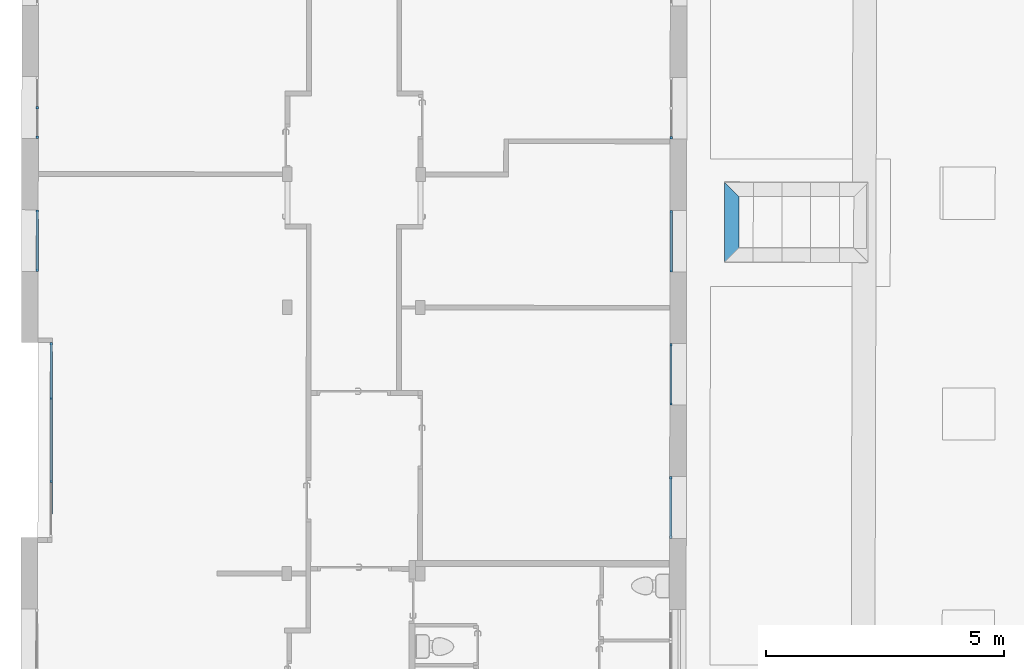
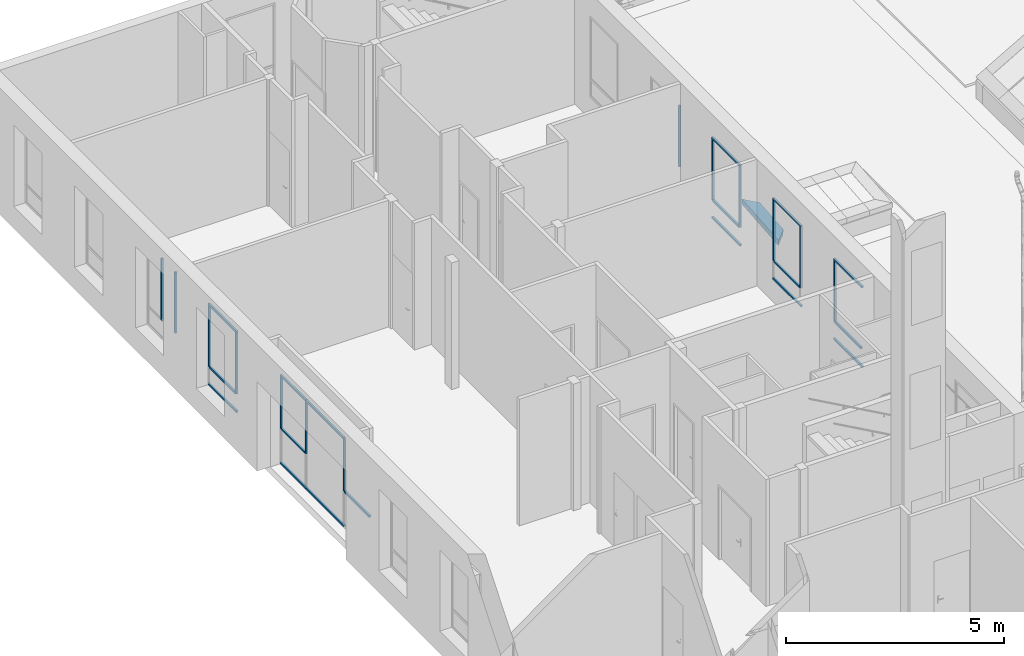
# One storey, part 8 of 101: 32 members, 8 elements without a shape of their own.
"""IFC2X3 building model written with IfcOpenShell, lengths in metres."""

from ifc_helpers import new_model, entity, si_unit, converted_unit, derived_unit, direction, frame, frame_2d, origin, origin_2d_with_axis, place, context, subcontext, project, spatial, polyline, rectangle, outline, extrude, source, transform, mapped, material, type_object, type_shapes, element, aggregate, save


model = new_model("IFC2X3")

# Units and contexts
model_context = context("Model", 3, precision=1e-05, world=origin(), true_north=direction((6.123233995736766e-17, 1.0)))
body_context = subcontext(model_context, "Body", "Model", "MODEL_VIEW")
ifc_project = project(units=[si_unit("LENGTHUNIT", "METRE"), si_unit("AREAUNIT", "SQUARE_METRE"), converted_unit("PLANEANGLEUNIT", "DEGREE", entity("IfcPlaneAngleMeasure", 0.017453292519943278), si_unit("PLANEANGLEUNIT", "RADIAN"), dimensions=[0, 0, 0, 0, 0, 0, 0]), derived_unit("THERMALTRANSMITTANCEUNIT", [(si_unit("MASSUNIT", "GRAM", prefix="KILO"), 1), (si_unit("THERMODYNAMICTEMPERATUREUNIT", "KELVIN"), -1), (si_unit("TIMEUNIT", "SECOND"), -3)])], contexts=[model_context])

# Site, building, storey
site_placement = place(None, frame((1253.6752467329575, 2072.143113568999, 91.49999999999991), z_axis=(0.0, 0.0, 1.0), x_axis=(0.7237211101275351, 0.6900925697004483, 0.0)))
site = spatial("IfcSite", under=ifc_project, at=site_placement, Name="Surface", CompositionType="ELEMENT")
building_placement = place(site_placement, origin())
building = spatial("IfcBuilding", under=site, at=building_placement, CompositionType="ELEMENT")
storey_placement = place(building_placement, origin())
storey = spatial("IfcBuildingStorey", under=building, at=storey_placement, Name="0- Rdc", CompositionType="ELEMENT", Elevation=-5.764692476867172e-13)

# Curtain wall, members
curtain_wall_type_1 = type_object("IfcCurtainWallType", Name="Mur-rideau:Menuiserie Ext 1F+1OB VERTIC", PredefinedType="NOTDEFINED")
curtain_wall_1_placement = place(storey_placement, origin())
curtain_wall_1 = element("IfcCurtainWall", 1, at=curtain_wall_1_placement, inside=storey, type_object=curtain_wall_type_1, Name="Mur-rideau:Menuiserie Ext 1F+1OB VERTIC", ObjectType="Mur-rideau:Menuiserie Ext 1F+1OB VERTIC")
ifc_material_1 = material(Name="OMD_Aluminium Men Ext")
member_type_1 = type_object("IfcMemberType", Name="Meneau rectangulaire:50x50", PredefinedType="MULLION", material=ifc_material_1)
shared_shape_1 = source(origin(), body_context, "Body", "SweptSolid", [
    extrude(rectangle(XDim=0.05, YDim=0.049999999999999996, at=origin_2d_with_axis()), frame((-0.025, 0.0, -1.2996959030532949), z_axis=(0.0, 0.0, 1.0), x_axis=(-1.0, 0.0, 0.0)), (0.0, 0.0, 1.0), 1.2996959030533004),
])
type_shapes(member_type_1, [shared_shape_1])
member_1_placement = place(curtain_wall_1_placement, frame((159.56004066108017, 20.331439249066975, 2.8999999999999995), z_axis=(0.6911544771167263, 0.7227070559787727, 0.0), x_axis=(0.0, 0.0, 1.0)))
member_1 = element("IfcMember", 2, at=member_1_placement, type_object=member_type_1, material=ifc_material_1, Name="Meneau rectangulaire:50x50", ObjectType="Meneau rectangulaire:50x50", context=body_context, shape_type="MappedRepresentation", body=[
    mapped(shared_shape_1, transform((0.0, 0.0, 0.0), scale=1.0)),
])
member_type_2 = type_object("IfcMemberType", Name="Meneau rectangulaire:50x50", PredefinedType="MULLION", material=ifc_material_1)
shared_shape_2 = source(origin(), body_context, "Body", "SweptSolid", [
    extrude(rectangle(XDim=0.05, YDim=0.05, at=origin_2d_with_axis()), frame((-0.025, 0.0, -1.2996959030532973), z_axis=(0.0, 0.0, 1.0), x_axis=(-1.0, 0.0, 0.0)), (0.0, 0.0, 1.0), 1.2996959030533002),
])
type_shapes(member_type_2, [shared_shape_2])
member_2_placement = place(curtain_wall_1_placement, frame((158.66175001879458, 19.392139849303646, 0.62), z_axis=(-0.6911544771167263, -0.7227070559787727, 0.0), x_axis=(0.0, 0.0, -1.0)))
member_2 = element("IfcMember", 3, at=member_2_placement, type_object=member_type_2, material=ifc_material_1, Name="Meneau rectangulaire:50x50", ObjectType="Meneau rectangulaire:50x50", context=body_context, shape_type="MappedRepresentation", body=[
    mapped(shared_shape_2, transform((0.0, 0.0, 0.0), scale=1.0)),
])
member_type_3 = type_object("IfcMemberType", Name="Meneau rectangulaire:50x50", PredefinedType="MULLION", material=ifc_material_1)
shared_shape_3 = source(origin(), body_context, "Body", "SweptSolid", [
    extrude(rectangle(XDim=0.05, YDim=0.049999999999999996, at=origin_2d_with_axis()), frame((-0.025, 0.0, -1.7099999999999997), z_axis=(0.0, 0.0, 1.0), x_axis=(-1.0, 0.0, 0.0)), (0.0, 0.0, 1.0), 1.7099999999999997),
])
type_shapes(member_type_3, [shared_shape_3])
member_3_placement = place(curtain_wall_1_placement, frame((158.66175001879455, 19.392139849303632, 2.8499999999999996), z_axis=(0.0, 0.0, 1.0), x_axis=(-0.6911544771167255, -0.7227070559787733, 0.0)))
member_3 = element("IfcMember", 4, at=member_3_placement, type_object=member_type_3, material=ifc_material_1, Name="Meneau rectangulaire:50x50", ObjectType="Meneau rectangulaire:50x50", context=body_context, shape_type="MappedRepresentation", body=[
    mapped(shared_shape_3, transform((0.0, 0.0, 0.0), scale=1.0)),
])

# Curtain wall, member
curtain_wall_2_placement = place(storey_placement, origin())
curtain_wall_2 = element("IfcCurtainWall", 5, at=curtain_wall_2_placement, inside=storey, type_object=curtain_wall_type_1, Name="Mur-rideau:Menuiserie Ext 1F+1OB VERTIC", ObjectType="Mur-rideau:Menuiserie Ext 1F+1OB VERTIC")
member_4_placement = place(curtain_wall_2_placement, frame((160.59650469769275, 21.41617649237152, 2.8499999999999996), z_axis=(0.0, 0.0, 1.0), x_axis=(-0.6911544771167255, -0.7227070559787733, 0.0)))
member_4 = element("IfcMember", 6, at=member_4_placement, type_object=member_type_3, material=ifc_material_1, Name="Meneau rectangulaire:50x50", ObjectType="Meneau rectangulaire:50x50", context=body_context, shape_type="MappedRepresentation", body=[
    mapped(shared_shape_3, transform((0.0, 0.0, 0.0), scale=1.0)),
])

# Member
member_type_4 = type_object("IfcMemberType", Name="Meneau rectangulaire:50x50", PredefinedType="MULLION", material=ifc_material_1)
shared_shape_4 = source(origin(), body_context, "Body", "SweptSolid", [
    extrude(rectangle(XDim=0.05, YDim=0.049999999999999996, at=origin_2d_with_axis()), frame((-0.025, 0.0, -1.7099999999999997), z_axis=(0.0, 0.0, 1.0), x_axis=(-1.0, 0.0, 0.0)), (0.0, 0.0, 1.0), 1.7099999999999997),
])
type_shapes(member_type_4, [shared_shape_4])
member_5_placement = place(curtain_wall_1_placement, frame((159.56004066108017, 20.33143924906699, 1.14), z_axis=(0.0, 0.0, -1.0), x_axis=(0.6911544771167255, 0.7227070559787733, 0.0)))
member_5 = element("IfcMember", 7, at=member_5_placement, type_object=member_type_4, material=ifc_material_1, Name="Meneau rectangulaire:50x50", ObjectType="Meneau rectangulaire:50x50", context=body_context, shape_type="MappedRepresentation", body=[
    mapped(shared_shape_4, transform((0.0, 0.0, 0.0), scale=1.0)),
])

member_type_5 = type_object("IfcMemberType", Name="Meneau rectangulaire:50x50", PredefinedType="MULLION", material=ifc_material_1)
shared_shape_5 = source(origin(), body_context, "Body", "SweptSolid", [
    extrude(rectangle(XDim=0.05, YDim=0.05, at=frame_2d((0.0, -1.734723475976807e-18), x_axis=(1.0, 0.0))), frame((0.0, 0.0, -1.1996959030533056), z_axis=(0.0, 0.0, 1.0), x_axis=(-1.0, 0.0, 0.0)), (0.0, 0.0, 1.0), 1.1996959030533),
])
type_shapes(member_type_5, [shared_shape_5])
member_6_placement = place(curtain_wall_1_placement, frame((159.52548293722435, 20.295303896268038, 1.14), z_axis=(0.6911544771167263, 0.7227070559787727, 0.0), x_axis=(0.0, 0.0, 1.0)))
member_6 = element("IfcMember", 8, at=member_6_placement, type_object=member_type_5, material=ifc_material_1, Name="Meneau rectangulaire:50x50", ObjectType="Meneau rectangulaire:50x50", context=body_context, shape_type="MappedRepresentation", body=[
    mapped(shared_shape_5, transform((0.0, 0.0, 0.0), scale=1.0)),
])

aggregate(curtain_wall_1, [member_1, member_2, member_3, member_5, member_6])

member_type_6 = type_object("IfcMemberType", Name="Meneau rectangulaire:50x50", PredefinedType="MULLION", material=ifc_material_1)
shared_shape_6 = source(origin(), body_context, "Body", "SweptSolid", [
    extrude(rectangle(XDim=0.05, YDim=0.05, at=origin_2d_with_axis()), frame((0.0, 0.0, -1.7349999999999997), z_axis=(0.0, 0.0, 1.0), x_axis=(-1.0, 0.0, 0.0)), (0.0, 0.0, 1.0), 1.7349999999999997),
])
type_shapes(member_type_6, [shared_shape_6])
member_7_placement = place(curtain_wall_2_placement, frame((161.04565001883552, 21.885826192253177, 1.1149999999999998), z_axis=(0.0, 0.0, -1.0), x_axis=(0.6911544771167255, 0.7227070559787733, 0.0)))
member_7 = element("IfcMember", 9, at=member_7_placement, type_object=member_type_6, material=ifc_material_1, Name="Meneau rectangulaire:50x50", ObjectType="Meneau rectangulaire:50x50", context=body_context, shape_type="MappedRepresentation", body=[
    mapped(shared_shape_6, transform((0.0, 0.0, 0.0), scale=1.0)),
])

aggregate(curtain_wall_2, [member_4, member_7])

# Curtain wall, member
curtain_wall_3_placement = place(storey_placement, origin())
curtain_wall_3 = element("IfcCurtainWall", 10, at=curtain_wall_3_placement, inside=storey, type_object=curtain_wall_type_1, Name="Mur-rideau:Menuiserie Ext 1F+1OB VERTIC", ObjectType="Mur-rideau:Menuiserie Ext 1F+1OB VERTIC")
member_type_7 = type_object("IfcMemberType", Name="Meneau rectangulaire:50x50", PredefinedType="MULLION", material=ifc_material_1)
shared_shape_7 = source(origin(), body_context, "Body", "SweptSolid", [
    extrude(rectangle(XDim=0.05, YDim=0.05, at=origin_2d_with_axis()), frame((-0.025, 0.0, -1.2996959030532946), z_axis=(0.0, 0.0, 1.0), x_axis=(-1.0, 0.0, 0.0)), (0.0, 0.0, 1.0), 1.299695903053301),
])
type_shapes(member_type_7, [shared_shape_7])
member_8_placement = place(curtain_wall_3_placement, frame((169.2043831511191, 11.117999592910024, 2.8999999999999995), z_axis=(0.6909838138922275, 0.7228702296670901, 0.0), x_axis=(0.0, 0.0, 1.0)))
member_8 = element("IfcMember", 11, at=member_8_placement, type_object=member_type_7, material=ifc_material_1, Name="Meneau rectangulaire:50x50", ObjectType="Meneau rectangulaire:50x50", context=body_context, shape_type="MappedRepresentation", body=[
    mapped(shared_shape_7, transform((0.0, 0.0, 0.0), scale=1.0)),
])

curtain_wall_4_placement = place(storey_placement, origin())
curtain_wall_4 = element("IfcCurtainWall", 12, at=curtain_wall_4_placement, inside=storey, type_object=curtain_wall_type_1, Name="Mur-rideau:Menuiserie Ext 1F+1OB VERTIC", ObjectType="Mur-rideau:Menuiserie Ext 1F+1OB VERTIC")
member_9_placement = place(curtain_wall_4_placement, frame((167.26962847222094, 9.09396294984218, 2.8999999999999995), z_axis=(0.6909838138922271, 0.7228702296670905, 0.0), x_axis=(0.0, 0.0, 1.0)))
member_9 = element("IfcMember", 13, at=member_9_placement, type_object=member_type_7, material=ifc_material_1, Name="Meneau rectangulaire:50x50", ObjectType="Meneau rectangulaire:50x50", context=body_context, shape_type="MappedRepresentation", body=[
    mapped(shared_shape_7, transform((0.0, 0.0, 0.0), scale=1.0)),
])

curtain_wall_5_placement = place(storey_placement, origin())
curtain_wall_5 = element("IfcCurtainWall", 14, at=curtain_wall_5_placement, inside=storey, type_object=curtain_wall_type_1, Name="Mur-rideau:Menuiserie Ext 1F+1OB VERTIC", ObjectType="Mur-rideau:Menuiserie Ext 1F+1OB VERTIC")
member_10_placement = place(curtain_wall_5_placement, frame((165.33487379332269, 7.0699263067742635, 2.8999999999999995), z_axis=(0.6909838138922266, 0.7228702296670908, 0.0), x_axis=(0.0, 0.0, 1.0)))
member_10 = element("IfcMember", 15, at=member_10_placement, type_object=member_type_7, material=ifc_material_1, Name="Meneau rectangulaire:50x50", ObjectType="Meneau rectangulaire:50x50", context=body_context, shape_type="MappedRepresentation", body=[
    mapped(shared_shape_7, transform((0.0, 0.0, 0.0), scale=1.0)),
])

# Member
member_type_8 = type_object("IfcMemberType", Name="Meneau rectangulaire:50x50", PredefinedType="MULLION", material=ifc_material_1)
shared_shape_8 = source(origin(), body_context, "Body", "SweptSolid", [
    extrude(rectangle(XDim=0.05, YDim=0.05, at=origin_2d_with_axis()), frame((-0.025, 0.0, -1.299695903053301), z_axis=(0.0, 0.0, 1.0), x_axis=(-1.0, 0.0, 0.0)), (0.0, 0.0, 1.0), 1.299695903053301),
])
type_shapes(member_type_8, [shared_shape_8])
member_11_placement = place(curtain_wall_3_placement, frame((168.30631431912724, 10.178488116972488, 0.62), z_axis=(-0.6909838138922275, -0.7228702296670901, 0.0), x_axis=(0.0, 0.0, -1.0)))
member_11 = element("IfcMember", 16, at=member_11_placement, type_object=member_type_8, material=ifc_material_1, Name="Meneau rectangulaire:50x50", ObjectType="Meneau rectangulaire:50x50", context=body_context, shape_type="MappedRepresentation", body=[
    mapped(shared_shape_8, transform((0.0, 0.0, 0.0), scale=1.0)),
])

member_12_placement = place(curtain_wall_4_placement, frame((166.37155964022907, 8.154451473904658, 0.62), z_axis=(-0.6909838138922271, -0.7228702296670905, 0.0), x_axis=(0.0, 0.0, -1.0)))
member_12 = element("IfcMember", 17, at=member_12_placement, type_object=member_type_8, material=ifc_material_1, Name="Meneau rectangulaire:50x50", ObjectType="Meneau rectangulaire:50x50", context=body_context, shape_type="MappedRepresentation", body=[
    mapped(shared_shape_8, transform((0.0, 0.0, 0.0), scale=1.0)),
])

member_13_placement = place(curtain_wall_5_placement, frame((164.4368049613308, 6.1304148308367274, 0.62), z_axis=(-0.6909838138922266, -0.7228702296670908, 0.0), x_axis=(0.0, 0.0, -1.0)))
member_13 = element("IfcMember", 18, at=member_13_placement, type_object=member_type_8, material=ifc_material_1, Name="Meneau rectangulaire:50x50", ObjectType="Meneau rectangulaire:50x50", context=body_context, shape_type="MappedRepresentation", body=[
    mapped(shared_shape_8, transform((0.0, 0.0, 0.0), scale=1.0)),
])

# Curtain wall, member
curtain_wall_6_placement = place(storey_placement, origin())
curtain_wall_6 = element("IfcCurtainWall", 19, at=curtain_wall_6_placement, inside=storey, type_object=curtain_wall_type_1, Name="Mur-rideau:Menuiserie Ext 1F+1OB VERTIC", ObjectType="Mur-rideau:Menuiserie Ext 1F+1OB VERTIC")
member_type_9 = type_object("IfcMemberType", Name="Meneau rectangulaire:50x50", PredefinedType="MULLION", material=ifc_material_1)
shared_shape_9 = source(origin(), body_context, "Body", "SweptSolid", [
    extrude(rectangle(XDim=0.05, YDim=0.05000000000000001, at=origin_2d_with_axis()), frame((-0.025, 0.0, -1.7099999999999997), z_axis=(0.0, 0.0, 1.0), x_axis=(-1.0, 0.0, 0.0)), (0.0, 0.0, 1.0), 1.7099999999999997),
])
type_shapes(member_type_9, [shared_shape_9])
member_14_placement = place(curtain_wall_6_placement, frame((170.24106899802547, 12.202524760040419, 2.8499999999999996), z_axis=(0.0, 0.0, 1.0), x_axis=(-0.6909838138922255, -0.722870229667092, 0.0)))
member_14 = element("IfcMember", 20, at=member_14_placement, type_object=member_type_9, material=ifc_material_1, Name="Meneau rectangulaire:50x50", ObjectType="Meneau rectangulaire:50x50", context=body_context, shape_type="MappedRepresentation", body=[
    mapped(shared_shape_9, transform((0.0, 0.0, 0.0), scale=1.0)),
])
aggregate(curtain_wall_6, [member_14])

# Member
member_15_placement = place(curtain_wall_3_placement, frame((168.30631431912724, 10.178488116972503, 2.8499999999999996), z_axis=(0.0, 0.0, 1.0), x_axis=(-0.6909838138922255, -0.722870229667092, 0.0)))
member_15 = element("IfcMember", 21, at=member_15_placement, type_object=member_type_9, material=ifc_material_1, Name="Meneau rectangulaire:50x50", ObjectType="Meneau rectangulaire:50x50", context=body_context, shape_type="MappedRepresentation", body=[
    mapped(shared_shape_9, transform((0.0, 0.0, 0.0), scale=1.0)),
])

member_16_placement = place(curtain_wall_4_placement, frame((166.3715596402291, 8.154451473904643, 2.8499999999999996), z_axis=(0.0, 0.0, 1.0), x_axis=(-0.6909838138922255, -0.722870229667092, 0.0)))
member_16 = element("IfcMember", 22, at=member_16_placement, type_object=member_type_9, material=ifc_material_1, Name="Meneau rectangulaire:50x50", ObjectType="Meneau rectangulaire:50x50", context=body_context, shape_type="MappedRepresentation", body=[
    mapped(shared_shape_9, transform((0.0, 0.0, 0.0), scale=1.0)),
])

member_type_10 = type_object("IfcMemberType", Name="Meneau rectangulaire:50x50", PredefinedType="MULLION", material=ifc_material_1)
shared_shape_10 = source(origin(), body_context, "Body", "SweptSolid", [
    extrude(rectangle(XDim=0.05, YDim=0.049999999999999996, at=origin_2d_with_axis()), frame((-0.025, 0.0, -1.7099999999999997), z_axis=(0.0, 0.0, 1.0), x_axis=(-1.0, 0.0, 0.0)), (0.0, 0.0, 1.0), 1.7099999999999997),
])
type_shapes(member_type_10, [shared_shape_10])
member_17_placement = place(curtain_wall_3_placement, frame((169.20438315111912, 11.117999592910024, 1.14), z_axis=(0.0, 0.0, -1.0), x_axis=(0.6909838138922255, 0.722870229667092, 0.0)))
member_17 = element("IfcMember", 23, at=member_17_placement, type_object=member_type_10, material=ifc_material_1, Name="Meneau rectangulaire:50x50", ObjectType="Meneau rectangulaire:50x50", context=body_context, shape_type="MappedRepresentation", body=[
    mapped(shared_shape_10, transform((0.0, 0.0, 0.0), scale=1.0)),
])

member_18_placement = place(curtain_wall_4_placement, frame((167.26962847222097, 9.093962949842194, 1.14), z_axis=(0.0, 0.0, -1.0), x_axis=(0.6909838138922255, 0.722870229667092, 0.0)))
member_18 = element("IfcMember", 24, at=member_18_placement, type_object=member_type_10, material=ifc_material_1, Name="Meneau rectangulaire:50x50", ObjectType="Meneau rectangulaire:50x50", context=body_context, shape_type="MappedRepresentation", body=[
    mapped(shared_shape_10, transform((0.0, 0.0, 0.0), scale=1.0)),
])

member_19_placement = place(curtain_wall_5_placement, frame((165.33487379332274, 7.069926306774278, 1.14), z_axis=(0.0, 0.0, -1.0), x_axis=(0.6909838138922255, 0.722870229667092, 0.0)))
member_19 = element("IfcMember", 25, at=member_19_placement, type_object=member_type_10, material=ifc_material_1, Name="Meneau rectangulaire:50x50", ObjectType="Meneau rectangulaire:50x50", context=body_context, shape_type="MappedRepresentation", body=[
    mapped(shared_shape_10, transform((0.0, 0.0, 0.0), scale=1.0)),
])

member_type_11 = type_object("IfcMemberType", Name="Meneau rectangulaire:50x50", PredefinedType="MULLION", material=ifc_material_1)
shared_shape_11 = source(origin(), body_context, "Body", "SweptSolid", [
    extrude(rectangle(XDim=0.05, YDim=0.05, at=origin_2d_with_axis()), frame((0.0, 0.0, -1.1996959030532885), z_axis=(0.0, 0.0, 1.0), x_axis=(-1.0, 0.0, 0.0)), (0.0, 0.0, 1.0), 1.199695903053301),
])
type_shapes(member_type_11, [shared_shape_11])
member_20_placement = place(curtain_wall_3_placement, frame((169.1698339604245, 11.081856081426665, 1.14), z_axis=(0.6909838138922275, 0.7228702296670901, 0.0), x_axis=(0.0, 0.0, 1.0)))
member_20 = element("IfcMember", 26, at=member_20_placement, type_object=member_type_11, material=ifc_material_1, Name="Meneau rectangulaire:50x50", ObjectType="Meneau rectangulaire:50x50", context=body_context, shape_type="MappedRepresentation", body=[
    mapped(shared_shape_11, transform((0.0, 0.0, 0.0), scale=1.0)),
])

aggregate(curtain_wall_3, [member_8, member_11, member_15, member_17, member_20])

member_21_placement = place(curtain_wall_4_placement, frame((167.23507928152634, 9.057819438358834, 1.14), z_axis=(0.6909838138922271, 0.7228702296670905, 0.0), x_axis=(0.0, 0.0, 1.0)))
member_21 = element("IfcMember", 27, at=member_21_placement, type_object=member_type_11, material=ifc_material_1, Name="Meneau rectangulaire:50x50", ObjectType="Meneau rectangulaire:50x50", context=body_context, shape_type="MappedRepresentation", body=[
    mapped(shared_shape_11, transform((0.0, 0.0, 0.0), scale=1.0)),
])

aggregate(curtain_wall_4, [member_9, member_12, member_16, member_18, member_21])

member_22_placement = place(curtain_wall_5_placement, frame((165.30032460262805, 7.033782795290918, 1.14), z_axis=(0.6909838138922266, 0.7228702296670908, 0.0), x_axis=(0.0, 0.0, 1.0)))
member_22 = element("IfcMember", 28, at=member_22_placement, type_object=member_type_11, material=ifc_material_1, Name="Meneau rectangulaire:50x50", ObjectType="Meneau rectangulaire:50x50", context=body_context, shape_type="MappedRepresentation", body=[
    mapped(shared_shape_11, transform((0.0, 0.0, 0.0), scale=1.0)),
])

aggregate(curtain_wall_5, [member_10, member_13, member_19, member_22])

# Curtain wall, members
curtain_wall_7_placement = place(storey_placement, origin())
curtain_wall_7 = element("IfcCurtainWall", 29, at=curtain_wall_7_placement, inside=storey, type_object=curtain_wall_type_1, Name="Mur-rideau:Menuiserie Ext 1F+1OB VERTIC", ObjectType="Mur-rideau:Menuiserie Ext 1F+1OB VERTIC")
member_type_12 = type_object("IfcMemberType", Name="Meneau rectangulaire:50x50", PredefinedType="MULLION", material=ifc_material_1)
shared_shape_12 = source(origin(), body_context, "Body", "SweptSolid", [
    extrude(rectangle(XDim=0.05, YDim=0.05, at=origin_2d_with_axis()), frame((-0.025, 0.0, -1.174999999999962), z_axis=(0.0, 0.0, 1.0), x_axis=(-1.0, 0.0, 0.0)), (0.0, 0.0, 1.0), 1.1749999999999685),
])
type_shapes(member_type_12, [shared_shape_12])
member_23_placement = place(curtain_wall_7_placement, frame((157.843400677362, 18.10439188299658, 0.0), z_axis=(0.6909838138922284, 0.7228702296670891, 0.0), x_axis=(0.0, 0.0, -1.0)))
member_23 = element("IfcMember", 30, at=member_23_placement, type_object=member_type_12, material=ifc_material_1, Name="Meneau rectangulaire:50x50", ObjectType="Meneau rectangulaire:50x50", context=body_context, shape_type="MappedRepresentation", body=[
    mapped(shared_shape_12, transform((0.0, 0.0, 0.0), scale=1.0)),
])
member_type_13 = type_object("IfcMemberType", Name="Meneau rectangulaire:50x50", PredefinedType="MULLION", material=ifc_material_1)
shared_shape_13 = source(origin(), body_context, "Body", "SweptSolid", [
    extrude(rectangle(XDim=0.05, YDim=0.05, at=origin_2d_with_axis()), frame((-0.025, 0.0, -1.4499999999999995), z_axis=(0.0, 0.0, 1.0), x_axis=(-1.0, 0.0, 0.0)), (0.0, 0.0, 1.0), 1.4499999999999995),
])
type_shapes(member_type_13, [shared_shape_13])
member_24_placement = place(curtain_wall_7_placement, frame((157.84340067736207, 18.10439188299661, 2.4499999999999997), z_axis=(0.0, 0.0, 1.0), x_axis=(0.6909838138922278, 0.7228702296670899, 0.0)))
member_24 = element("IfcMember", 31, at=member_24_placement, type_object=member_type_13, material=ifc_material_1, Name="Meneau rectangulaire:50x50", ObjectType="Meneau rectangulaire:50x50", context=body_context, shape_type="MappedRepresentation", body=[
    mapped(shared_shape_13, transform((0.0, 0.0, 0.0), scale=1.0)),
])
member_type_14 = type_object("IfcMemberType", Name="Meneau rectangulaire:50x50", PredefinedType="MULLION", material=ifc_material_1)
shared_shape_14 = source(origin(), body_context, "Body", "SweptSolid", [
    extrude(rectangle(XDim=0.05, YDim=0.049999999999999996, at=origin_2d_with_axis()), frame((-0.025, 0.0, -1.7450000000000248), z_axis=(0.0, 0.0, 1.0), x_axis=(-1.0, 0.0, 0.0)), (0.0, 0.0, 1.0), 1.7450000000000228),
])
type_shapes(member_type_14, [shared_shape_14])
member_25_placement = place(curtain_wall_7_placement, frame((155.82572794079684, 15.9936108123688, 2.4999999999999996), z_axis=(-0.690983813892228, -0.7228702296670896, 0.0), x_axis=(0.0, 0.0, 1.0)))
member_25 = element("IfcMember", 32, at=member_25_placement, type_object=member_type_14, material=ifc_material_1, Name="Meneau rectangulaire:50x50", ObjectType="Meneau rectangulaire:50x50", context=body_context, shape_type="MappedRepresentation", body=[
    mapped(shared_shape_14, transform((0.0, 0.0, 0.0), scale=1.0)),
])
member_type_15 = type_object("IfcMemberType", Name="Meneau rectangulaire:50x50", PredefinedType="MULLION", material=ifc_material_1)
shared_shape_15 = source(origin(), body_context, "Body", "SweptSolid", [
    extrude(rectangle(XDim=0.05, YDim=0.05, at=origin_2d_with_axis()), frame((0.0, 0.0, -1.449999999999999), z_axis=(0.0, 0.0, 1.0), x_axis=(-1.0, 0.0, 0.0)), (0.0, 0.0, 1.0), 1.449999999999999),
])
type_shapes(member_type_15, [shared_shape_15])
member_26_placement = place(curtain_wall_7_placement, frame((155.82572794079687, 15.993610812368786, 1.0), z_axis=(0.0, 0.0, -1.0), x_axis=(-0.6909838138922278, -0.7228702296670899, 0.0)))
member_26 = element("IfcMember", 33, at=member_26_placement, type_object=member_type_15, material=ifc_material_1, Name="Meneau rectangulaire:50x50", ObjectType="Meneau rectangulaire:50x50", context=body_context, shape_type="MappedRepresentation", body=[
    mapped(shared_shape_15, transform((0.0, 0.0, 0.0), scale=1.0)),
])
member_27_placement = place(curtain_wall_7_placement, frame((157.0314946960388, 17.25501936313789, 1.0), z_axis=(0.0, 0.0, -1.0), x_axis=(-0.6909838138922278, -0.7228702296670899, 0.0)))
member_27 = element("IfcMember", 34, at=member_27_placement, type_object=member_type_15, material=ifc_material_1, Name="Meneau rectangulaire:50x50", ObjectType="Meneau rectangulaire:50x50", context=body_context, shape_type="MappedRepresentation", body=[
    mapped(shared_shape_15, transform((0.0, 0.0, 0.0), scale=1.0)),
])
member_type_16 = type_object("IfcMemberType", Name="Meneau rectangulaire:50x50", PredefinedType="MULLION", material=ifc_material_1)
shared_shape_16 = source(origin(), body_context, "Body", "SweptSolid", [
    extrude(rectangle(XDim=0.05, YDim=0.05, at=origin_2d_with_axis()), frame((0.0, 0.0, -1.1549999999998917), z_axis=(0.0, 0.0, 1.0), x_axis=(-1.0, 0.0, 0.0)), (0.0, 0.0, 1.0), 1.154999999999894),
])
type_shapes(member_type_16, [shared_shape_16])
member_28_placement = place(curtain_wall_7_placement, frame((155.01036704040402, 15.140623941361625, 1.0), z_axis=(-0.6909838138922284, -0.7228702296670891, 0.0), x_axis=(0.0, 0.0, 1.0)))
member_28 = element("IfcMember", 35, at=member_28_placement, type_object=member_type_16, material=ifc_material_1, Name="Meneau rectangulaire:50x50", ObjectType="Meneau rectangulaire:50x50", context=body_context, shape_type="MappedRepresentation", body=[
    mapped(shared_shape_16, transform((0.0, 0.0, 0.0), scale=1.0)),
])
member_type_17 = type_object("IfcMemberType", Name="Meneau rectangulaire:50x50", PredefinedType="MULLION", material=ifc_material_1)
shared_shape_17 = source(origin(), body_context, "Body", "SweptSolid", [
    extrude(rectangle(XDim=0.05, YDim=0.05, at=origin_2d_with_axis()), frame((0.0, 0.0, -1.0999999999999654), z_axis=(0.0, 0.0, 1.0), x_axis=(-1.0, 0.0, 0.0)), (0.0, 0.0, 1.0), 1.0999999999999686),
])
type_shapes(member_type_17, [shared_shape_17])
member_29_placement = place(curtain_wall_7_placement, frame((157.04876929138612, 17.27309111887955, 1.0), z_axis=(-0.6909838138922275, -0.7228702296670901, 0.0), x_axis=(0.0, 0.0, 1.0)))
member_29 = element("IfcMember", 36, at=member_29_placement, type_object=member_type_17, material=ifc_material_1, Name="Meneau rectangulaire:50x50", ObjectType="Meneau rectangulaire:50x50", context=body_context, shape_type="MappedRepresentation", body=[
    mapped(shared_shape_17, transform((0.0, 0.0, 0.0), scale=1.0)),
])
member_type_18 = type_object("IfcMemberType", Name="Meneau rectangulaire:50x50", PredefinedType="MULLION", material=ifc_material_1)
shared_shape_18 = source(origin(), body_context, "Body", "SweptSolid", [
    extrude(rectangle(XDim=0.05, YDim=0.05, at=origin_2d_with_axis()), frame((-0.025, 0.0, -1.7450000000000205), z_axis=(0.0, 0.0, 1.0), x_axis=(-1.0, 0.0, 0.0)), (0.0, 0.0, 1.0), 1.7450000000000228),
])
type_shapes(member_type_18, [shared_shape_18])
member_30_placement = place(curtain_wall_7_placement, frame((157.03149469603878, 17.25501936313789, 0.0), z_axis=(0.690983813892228, 0.7228702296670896, 0.0), x_axis=(0.0, 0.0, -1.0)))
member_30 = element("IfcMember", 37, at=member_30_placement, type_object=member_type_18, material=ifc_material_1, Name="Meneau rectangulaire:50x50", ObjectType="Meneau rectangulaire:50x50", context=body_context, shape_type="MappedRepresentation", body=[
    mapped(shared_shape_18, transform((0.0, 0.0, 0.0), scale=1.0)),
])
member_type_19 = type_object("IfcMemberType", Name="Meneau rectangulaire:50x50", PredefinedType="MULLION", material=ifc_material_1)
shared_shape_19 = source(origin(), body_context, "Body", "SweptSolid", [
    extrude(rectangle(XDim=0.05, YDim=0.049999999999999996, at=origin_2d_with_axis()), frame((-0.025, 0.0, -1.174999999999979), z_axis=(0.0, 0.0, 1.0), x_axis=(-1.0, 0.0, 0.0)), (0.0, 0.0, 1.0), 1.1749999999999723),
])
type_shapes(member_type_19, [shared_shape_19])
member_31_placement = place(curtain_wall_7_placement, frame((157.0314946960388, 17.255019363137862, 2.4999999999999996), z_axis=(-0.6909838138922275, -0.7228702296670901, 0.0), x_axis=(0.0, 0.0, 1.0)))
member_31 = element("IfcMember", 38, at=member_31_placement, type_object=member_type_19, material=ifc_material_1, Name="Meneau rectangulaire:50x50", ObjectType="Meneau rectangulaire:50x50", context=body_context, shape_type="MappedRepresentation", body=[
    mapped(shared_shape_19, transform((0.0, 0.0, 0.0), scale=1.0)),
])
aggregate(curtain_wall_7, [member_23, member_24, member_25, member_26, member_28, member_29, member_30, member_31, member_27])

# Roof, member
curtain_wall_type_2 = type_object("IfcCurtainWallType", Name="Vitres inclinées:Toit en verre 1 m x 2 m", PredefinedType="NOTDEFINED")
roof_placement = place(storey_placement, origin())
roof = element("IfcRoof", 39, at=roof_placement, inside=storey, type_object=curtain_wall_type_2, Name="Vitres inclinées:Toit en verre 1 m x 2 m", ObjectType="Vitres inclinées:Toit en verre 1 m x 2 m", ShapeType="NOTDEFINED")
ifc_material_2 = material(Name="OMD_Aluminium blanc")
member_type_20 = type_object("IfcMemberType", Name="Meneau rectangulaire:22x300", PredefinedType="MULLION", material=ifc_material_2)
shared_shape_20 = source(origin(), body_context, "Body", "SweptSolid", [
    extrude(outline(polyline([(-0.8426884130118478, -0.15000000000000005), (0.842709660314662, -0.14999999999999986), (0.542667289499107, 0.15000000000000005), (-0.5426885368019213, 0.14999999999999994), (-0.8426884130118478, -0.15000000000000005)])), frame((-0.15000000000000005, -0.010000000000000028, -0.842688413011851), z_axis=(0.0, 1.0, 0.0), x_axis=(0.0, 0.0, -1.0)), (0.0, 0.0, 1.0), 0.15000000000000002),
])
type_shapes(member_type_20, [shared_shape_20])
member_32_placement = place(roof_placement, frame((169.2645677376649, 9.55618619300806, 0.24479977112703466), z_axis=(-0.6883544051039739, -0.7201194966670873, -0.08715574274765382), x_axis=(-0.7228702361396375, 0.6909838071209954, 0.0)))
member_32 = element("IfcMember", 40, at=member_32_placement, type_object=member_type_20, material=ifc_material_2, Name="Meneau rectangulaire:22x300", ObjectType="Meneau rectangulaire:22x300", context=body_context, shape_type="MappedRepresentation", body=[
    mapped(shared_shape_20, transform((0.0, 0.0, 0.0), scale=1.0)),
])
aggregate(roof, [member_32])

save(model, "model.ifc")
